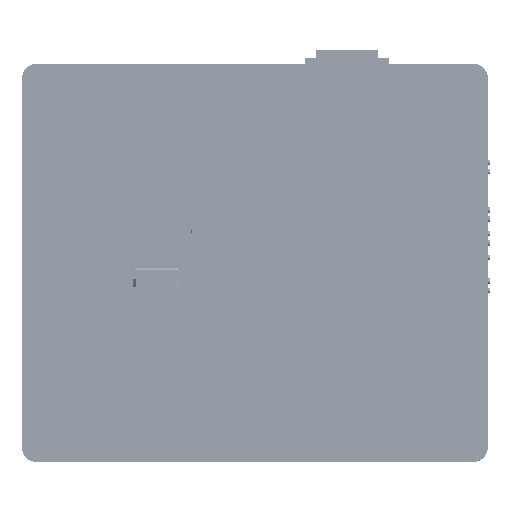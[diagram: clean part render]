
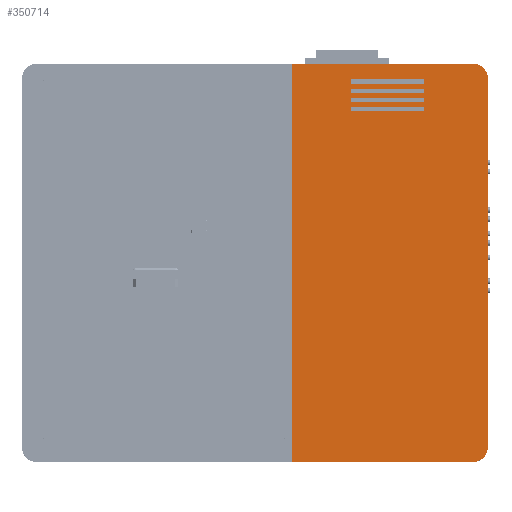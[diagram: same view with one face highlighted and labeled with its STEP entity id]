
A CAD part, top view. The second image highlights one B-rep face of the part: STEP entity #350714.
In plain terms, the highlighted planar face has unit normal (0, 0, 1).
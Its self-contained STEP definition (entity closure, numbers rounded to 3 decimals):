
#27276=FACE_BOUND('',#59841,.T.);
#27277=FACE_BOUND('',#59842,.T.);
#27278=FACE_BOUND('',#59843,.T.);
#27279=FACE_BOUND('',#59844,.T.);
#29189=PLANE('',#369019);
#41703=FACE_OUTER_BOUND('',#59840,.T.);
#59840=EDGE_LOOP('',(#247698,#247699,#247700,#247701,#247702,#247703));
#59841=EDGE_LOOP('',(#247704,#247705,#247706,#247707));
#59842=EDGE_LOOP('',(#247708,#247709,#247710,#247711));
#59843=EDGE_LOOP('',(#247712,#247713,#247714,#247715));
#59844=EDGE_LOOP('',(#247716,#247717,#247718,#247719));
#79785=LINE('',#469231,#119083);
#79789=LINE('',#469239,#119087);
#79792=LINE('',#469245,#119090);
#79795=LINE('',#469250,#119093);
#79797=LINE('',#469256,#119095);
#79801=LINE('',#469264,#119099);
#79804=LINE('',#469270,#119102);
#79807=LINE('',#469275,#119105);
#79809=LINE('',#469281,#119107);
#79813=LINE('',#469289,#119111);
#79816=LINE('',#469295,#119114);
#79819=LINE('',#469300,#119117);
#79821=LINE('',#469306,#119119);
#79825=LINE('',#469314,#119123);
#79828=LINE('',#469320,#119126);
#79831=LINE('',#469325,#119129);
#79861=LINE('',#469392,#119159);
#79867=LINE('',#469408,#119165);
#79868=LINE('',#469411,#119166);
#79870=LINE('',#469414,#119168);
#119083=VECTOR('',#389649,10.);
#119087=VECTOR('',#389655,10.);
#119090=VECTOR('',#389660,10.);
#119093=VECTOR('',#389665,10.);
#119095=VECTOR('',#389671,10.);
#119099=VECTOR('',#389677,10.);
#119102=VECTOR('',#389682,10.);
#119105=VECTOR('',#389687,10.);
#119107=VECTOR('',#389693,10.);
#119111=VECTOR('',#389699,10.);
#119114=VECTOR('',#389704,10.);
#119117=VECTOR('',#389709,10.);
#119119=VECTOR('',#389715,10.);
#119123=VECTOR('',#389721,10.);
#119126=VECTOR('',#389726,10.);
#119129=VECTOR('',#389731,10.);
#119159=VECTOR('',#389791,10.);
#119165=VECTOR('',#389807,10.);
#119166=VECTOR('',#389810,10.);
#119168=VECTOR('',#389814,10.);
#158139=CIRCLE('',#369009,4.);
#158142=CIRCLE('',#369015,4.);
#163172=VERTEX_POINT('',#469229);
#163173=VERTEX_POINT('',#469230);
#163176=VERTEX_POINT('',#469238);
#163178=VERTEX_POINT('',#469244);
#163180=VERTEX_POINT('',#469254);
#163181=VERTEX_POINT('',#469255);
#163184=VERTEX_POINT('',#469263);
#163186=VERTEX_POINT('',#469269);
#163188=VERTEX_POINT('',#469279);
#163189=VERTEX_POINT('',#469280);
#163192=VERTEX_POINT('',#469288);
#163194=VERTEX_POINT('',#469294);
#163196=VERTEX_POINT('',#469304);
#163197=VERTEX_POINT('',#469305);
#163200=VERTEX_POINT('',#469313);
#163202=VERTEX_POINT('',#469319);
#163220=VERTEX_POINT('',#469379);
#163221=VERTEX_POINT('',#469380);
#163225=VERTEX_POINT('',#469390);
#163229=VERTEX_POINT('',#469402);
#163230=VERTEX_POINT('',#469406);
#163231=VERTEX_POINT('',#469410);
#196526=EDGE_CURVE('',#163172,#163173,#79785,.T.);
#196530=EDGE_CURVE('',#163173,#163176,#79789,.T.);
#196533=EDGE_CURVE('',#163176,#163178,#79792,.T.);
#196536=EDGE_CURVE('',#163178,#163172,#79795,.T.);
#196538=EDGE_CURVE('',#163180,#163181,#79797,.T.);
#196542=EDGE_CURVE('',#163181,#163184,#79801,.T.);
#196545=EDGE_CURVE('',#163184,#163186,#79804,.T.);
#196548=EDGE_CURVE('',#163186,#163180,#79807,.T.);
#196550=EDGE_CURVE('',#163188,#163189,#79809,.T.);
#196554=EDGE_CURVE('',#163189,#163192,#79813,.T.);
#196557=EDGE_CURVE('',#163192,#163194,#79816,.T.);
#196560=EDGE_CURVE('',#163194,#163188,#79819,.T.);
#196562=EDGE_CURVE('',#163196,#163197,#79821,.T.);
#196566=EDGE_CURVE('',#163197,#163200,#79825,.T.);
#196569=EDGE_CURVE('',#163200,#163202,#79828,.T.);
#196572=EDGE_CURVE('',#163202,#163196,#79831,.T.);
#196598=EDGE_CURVE('',#163220,#163221,#158139,.T.);
#196604=EDGE_CURVE('',#163220,#163225,#79861,.T.);
#196609=EDGE_CURVE('',#163229,#163225,#158142,.T.);
#196612=EDGE_CURVE('',#163229,#163230,#79867,.T.);
#196613=EDGE_CURVE('',#163231,#163221,#79868,.T.);
#196615=EDGE_CURVE('',#163230,#163231,#79870,.T.);
#247698=ORIENTED_EDGE('',*,*,#196598,.F.);
#247699=ORIENTED_EDGE('',*,*,#196604,.T.);
#247700=ORIENTED_EDGE('',*,*,#196609,.F.);
#247701=ORIENTED_EDGE('',*,*,#196612,.T.);
#247702=ORIENTED_EDGE('',*,*,#196615,.T.);
#247703=ORIENTED_EDGE('',*,*,#196613,.T.);
#247704=ORIENTED_EDGE('',*,*,#196526,.T.);
#247705=ORIENTED_EDGE('',*,*,#196530,.T.);
#247706=ORIENTED_EDGE('',*,*,#196533,.T.);
#247707=ORIENTED_EDGE('',*,*,#196536,.T.);
#247708=ORIENTED_EDGE('',*,*,#196538,.T.);
#247709=ORIENTED_EDGE('',*,*,#196542,.T.);
#247710=ORIENTED_EDGE('',*,*,#196545,.T.);
#247711=ORIENTED_EDGE('',*,*,#196548,.T.);
#247712=ORIENTED_EDGE('',*,*,#196550,.T.);
#247713=ORIENTED_EDGE('',*,*,#196554,.T.);
#247714=ORIENTED_EDGE('',*,*,#196557,.T.);
#247715=ORIENTED_EDGE('',*,*,#196560,.T.);
#247716=ORIENTED_EDGE('',*,*,#196562,.T.);
#247717=ORIENTED_EDGE('',*,*,#196566,.T.);
#247718=ORIENTED_EDGE('',*,*,#196569,.T.);
#247719=ORIENTED_EDGE('',*,*,#196572,.T.);
#350714=ADVANCED_FACE('',(#41703,#27276,#27277,#27278,#27279),#29189,.T.);
#369009=AXIS2_PLACEMENT_3D('',#469381,#389781,#389782);
#369015=AXIS2_PLACEMENT_3D('',#469403,#389801,#389802);
#369019=AXIS2_PLACEMENT_3D('',#469415,#389815,#389816);
#389649=DIRECTION('',(1.,0.,0.));
#389655=DIRECTION('',(0.,-1.,0.));
#389660=DIRECTION('',(-1.,0.,0.));
#389665=DIRECTION('',(0.,1.,0.));
#389671=DIRECTION('',(1.,0.,0.));
#389677=DIRECTION('',(0.,-1.,0.));
#389682=DIRECTION('',(-1.,0.,0.));
#389687=DIRECTION('',(0.,1.,0.));
#389693=DIRECTION('',(1.,0.,0.));
#389699=DIRECTION('',(0.,-1.,0.));
#389704=DIRECTION('',(-1.,0.,0.));
#389709=DIRECTION('',(0.,1.,0.));
#389715=DIRECTION('',(1.,0.,0.));
#389721=DIRECTION('',(0.,-1.,0.));
#389726=DIRECTION('',(-1.,0.,0.));
#389731=DIRECTION('',(0.,1.,0.));
#389781=DIRECTION('center_axis',(0.,0.,-1.));
#389782=DIRECTION('ref_axis',(0.707,-0.707,0.));
#389791=DIRECTION('',(0.,1.,0.));
#389801=DIRECTION('center_axis',(0.,0.,-1.));
#389802=DIRECTION('ref_axis',(0.707,0.707,0.));
#389807=DIRECTION('',(-1.,0.,0.));
#389810=DIRECTION('',(1.,0.,0.));
#389814=DIRECTION('',(0.,-1.,0.));
#389815=DIRECTION('center_axis',(0.,0.,1.));
#389816=DIRECTION('ref_axis',(1.,0.,0.));
#469229=CARTESIAN_POINT('',(62.,44.7,22.));
#469230=CARTESIAN_POINT('',(82.,44.7,22.));
#469231=CARTESIAN_POINT('',(77.375,44.7,22.));
#469238=CARTESIAN_POINT('',(82.,43.5,22.));
#469239=CARTESIAN_POINT('',(82.,19.,22.));
#469244=CARTESIAN_POINT('',(62.,43.5,22.));
#469245=CARTESIAN_POINT('',(67.375,43.5,22.));
#469250=CARTESIAN_POINT('',(62.,19.6,22.));
#469254=CARTESIAN_POINT('',(62.,37.2,22.));
#469255=CARTESIAN_POINT('',(82.,37.2,22.));
#469256=CARTESIAN_POINT('',(77.375,37.2,22.));
#469263=CARTESIAN_POINT('',(82.,36.,22.));
#469264=CARTESIAN_POINT('',(82.,15.25,22.));
#469269=CARTESIAN_POINT('',(62.,36.,22.));
#469270=CARTESIAN_POINT('',(67.375,36.,22.));
#469275=CARTESIAN_POINT('',(62.,15.85,22.));
#469279=CARTESIAN_POINT('',(62.,39.7,22.));
#469280=CARTESIAN_POINT('',(82.,39.7,22.));
#469281=CARTESIAN_POINT('',(77.375,39.7,22.));
#469288=CARTESIAN_POINT('',(82.,38.5,22.));
#469289=CARTESIAN_POINT('',(82.,16.5,22.));
#469294=CARTESIAN_POINT('',(62.,38.5,22.));
#469295=CARTESIAN_POINT('',(67.375,38.5,22.));
#469300=CARTESIAN_POINT('',(62.,17.1,22.));
#469304=CARTESIAN_POINT('',(62.,42.2,22.));
#469305=CARTESIAN_POINT('',(82.,42.2,22.));
#469306=CARTESIAN_POINT('',(77.375,42.2,22.));
#469313=CARTESIAN_POINT('',(82.,41.,22.));
#469314=CARTESIAN_POINT('',(82.,17.75,22.));
#469319=CARTESIAN_POINT('',(62.,41.,22.));
#469320=CARTESIAN_POINT('',(67.375,41.,22.));
#469325=CARTESIAN_POINT('',(62.,18.35,22.));
#469379=CARTESIAN_POINT('',(99.5,-56.,22.));
#469380=CARTESIAN_POINT('',(95.5,-60.,22.));
#469381=CARTESIAN_POINT('Origin',(95.5,-56.,22.));
#469390=CARTESIAN_POINT('',(99.5,45.,22.));
#469392=CARTESIAN_POINT('',(99.5,-60.,22.));
#469402=CARTESIAN_POINT('',(95.5,49.,22.));
#469403=CARTESIAN_POINT('Origin',(95.5,45.,22.));
#469406=CARTESIAN_POINT('',(46.,49.,22.));
#469408=CARTESIAN_POINT('',(99.5,49.,22.));
#469410=CARTESIAN_POINT('',(46.,-60.,22.));
#469411=CARTESIAN_POINT('',(46.,-60.,22.));
#469414=CARTESIAN_POINT('',(46.,49.,22.));
#469415=CARTESIAN_POINT('Origin',(72.75,-5.5,22.));
